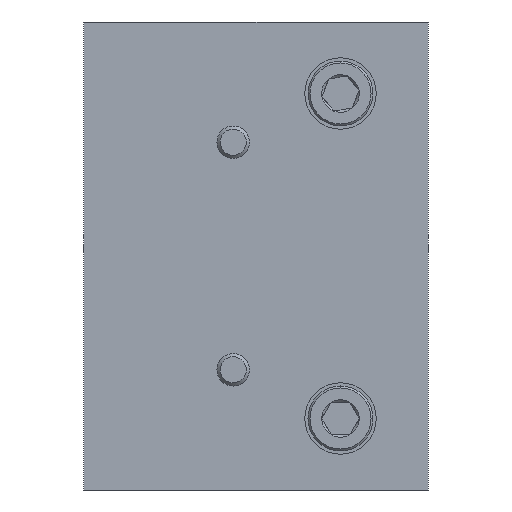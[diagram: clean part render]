
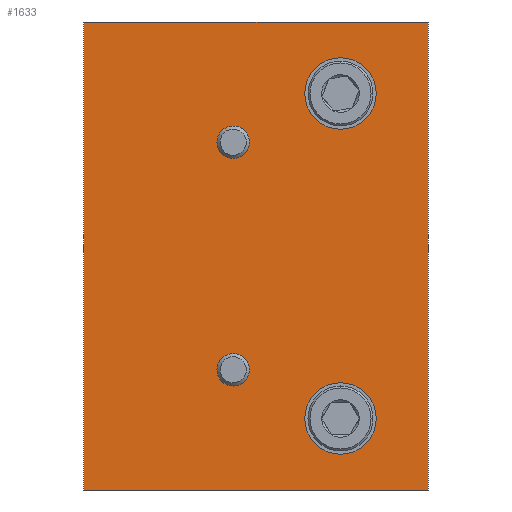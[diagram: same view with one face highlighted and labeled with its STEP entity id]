
A CAD part, left-side view. The second image highlights one B-rep face of the part: STEP entity #1633.
In plain terms, the highlighted planar face has unit normal (-1, 0, 0) as drawn and (0, 0, 1) by its records, which use the part's own axes.
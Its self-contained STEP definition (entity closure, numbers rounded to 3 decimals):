
#93 = VERTEX_POINT ( 'NONE', #1614 ) ;
#111 = CARTESIAN_POINT ( 'NONE',  ( -19.5, -13., 4. ) ) ;
#119 = DIRECTION ( 'NONE',  ( 0., 0., 1. ) ) ;
#131 = EDGE_CURVE ( 'NONE', #818, #818, #338, .T. ) ;
#157 = DIRECTION ( 'NONE',  ( 0., 0., 1. ) ) ;
#206 = VERTEX_POINT ( 'NONE', #1569 ) ;
#276 = VERTEX_POINT ( 'NONE', #2385 ) ;
#290 = PLANE ( 'NONE',  #1943 ) ;
#338 = CIRCLE ( 'NONE', #1249, 5.5 ) ;
#382 = DIRECTION ( 'NONE',  ( 0., 0., 1. ) ) ;
#408 = EDGE_CURVE ( 'NONE', #276, #276, #865, .T. ) ;
#411 = EDGE_CURVE ( 'NONE', #1776, #1715, #1961, .T. ) ;
#504 = FACE_BOUND ( 'NONE', #2331, .T. ) ;
#520 = AXIS2_PLACEMENT_3D ( 'NONE', #1363, #119, #1574 ) ;
#538 = ORIENTED_EDGE ( 'NONE', *, *, #1307, .T. ) ;
#605 = EDGE_CURVE ( 'NONE', #1715, #93, #1282, .T. ) ;
#728 = VECTOR ( 'NONE', #1429, 1000. ) ;
#818 = VERTEX_POINT ( 'NONE', #111 ) ;
#865 = CIRCLE ( 'NONE', #2582, 5.5 ) ;
#903 = DIRECTION ( 'NONE',  ( 0., 0., 1. ) ) ;
#922 = VECTOR ( 'NONE', #2642, 1000. ) ;
#937 = VERTEX_POINT ( 'NONE', #1565 ) ;
#964 = EDGE_CURVE ( 'NONE', #206, #206, #2384, .T. ) ;
#975 = LINE ( 'NONE', #2255, #1471 ) ;
#977 = EDGE_LOOP ( 'NONE', ( #1390, #538, #2491, #1706 ) ) ;
#1046 = DIRECTION ( 'NONE',  ( 0., 0., 1. ) ) ;
#1096 = ORIENTED_EDGE ( 'NONE', *, *, #2557, .F. ) ;
#1111 = VERTEX_POINT ( 'NONE', #1578 ) ;
#1140 = ORIENTED_EDGE ( 'NONE', *, *, #964, .F. ) ;
#1180 = CIRCLE ( 'NONE', #2379, 2.5 ) ;
#1184 = DIRECTION ( 'NONE',  ( 1., 0., 0. ) ) ;
#1249 = AXIS2_PLACEMENT_3D ( 'NONE', #2047, #382, #1833 ) ;
#1282 = LINE ( 'NONE', #1846, #728 ) ;
#1307 = EDGE_CURVE ( 'NONE', #93, #937, #975, .T. ) ;
#1328 = DIRECTION ( 'NONE',  ( 1., 0., 0. ) ) ;
#1363 = CARTESIAN_POINT ( 'NONE',  ( -17.5, 3.5, 4. ) ) ;
#1370 = DIRECTION ( 'NONE',  ( 0., 1., 0. ) ) ;
#1390 = ORIENTED_EDGE ( 'NONE', *, *, #605, .T. ) ;
#1399 = CARTESIAN_POINT ( 'NONE',  ( 25., -13., 4. ) ) ;
#1416 = LINE ( 'NONE', #1583, #2530 ) ;
#1418 = CARTESIAN_POINT ( 'NONE',  ( -36., 26.5, 4. ) ) ;
#1429 = DIRECTION ( 'NONE',  ( 0., -1., 0. ) ) ;
#1471 = VECTOR ( 'NONE', #1640, 1000. ) ;
#1546 = FACE_OUTER_BOUND ( 'NONE', #977, .T. ) ;
#1565 = CARTESIAN_POINT ( 'NONE',  ( 36., -26.5, 4. ) ) ;
#1569 = CARTESIAN_POINT ( 'NONE',  ( -15., 3.5, 4. ) ) ;
#1574 = DIRECTION ( 'NONE',  ( 1., 0., 0. ) ) ;
#1578 = CARTESIAN_POINT ( 'NONE',  ( 20., 3.5, 4. ) ) ;
#1583 = CARTESIAN_POINT ( 'NONE',  ( 36., 26.5, 4. ) ) ;
#1607 = FACE_BOUND ( 'NONE', #2234, .T. ) ;
#1614 = CARTESIAN_POINT ( 'NONE',  ( -36., -26.5, 4. ) ) ;
#1633 = ADVANCED_FACE ( 'NONE', ( #504, #1607, #2105, #2651, #1546 ), #290, .T. ) ;
#1640 = DIRECTION ( 'NONE',  ( 1., 0., 0. ) ) ;
#1670 = ORIENTED_EDGE ( 'NONE', *, *, #408, .F. ) ;
#1706 = ORIENTED_EDGE ( 'NONE', *, *, #411, .T. ) ;
#1715 = VERTEX_POINT ( 'NONE', #1418 ) ;
#1776 = VERTEX_POINT ( 'NONE', #2674 ) ;
#1833 = DIRECTION ( 'NONE',  ( 1., 0., 0. ) ) ;
#1846 = CARTESIAN_POINT ( 'NONE',  ( -36., 26.5, 4. ) ) ;
#1858 = EDGE_CURVE ( 'NONE', #937, #1776, #1416, .T. ) ;
#1943 = AXIS2_PLACEMENT_3D ( 'NONE', #2573, #903, #1328 ) ;
#1961 = LINE ( 'NONE', #2026, #922 ) ;
#2026 = CARTESIAN_POINT ( 'NONE',  ( -36., 26.5, 4. ) ) ;
#2033 = EDGE_LOOP ( 'NONE', ( #2512 ) ) ;
#2047 = CARTESIAN_POINT ( 'NONE',  ( -25., -13., 4. ) ) ;
#2105 = FACE_BOUND ( 'NONE', #2033, .T. ) ;
#2234 = EDGE_LOOP ( 'NONE', ( #1096 ) ) ;
#2255 = CARTESIAN_POINT ( 'NONE',  ( -36., -26.5, 4. ) ) ;
#2282 = CARTESIAN_POINT ( 'NONE',  ( 17.5, 3.5, 4. ) ) ;
#2331 = EDGE_LOOP ( 'NONE', ( #1140 ) ) ;
#2379 = AXIS2_PLACEMENT_3D ( 'NONE', #2282, #1046, #2501 ) ;
#2384 = CIRCLE ( 'NONE', #520, 2.5 ) ;
#2385 = CARTESIAN_POINT ( 'NONE',  ( 30.5, -13., 4. ) ) ;
#2491 = ORIENTED_EDGE ( 'NONE', *, *, #1858, .T. ) ;
#2501 = DIRECTION ( 'NONE',  ( 1., 0., 0. ) ) ;
#2512 = ORIENTED_EDGE ( 'NONE', *, *, #131, .F. ) ;
#2530 = VECTOR ( 'NONE', #1370, 1000. ) ;
#2555 = EDGE_LOOP ( 'NONE', ( #1670 ) ) ;
#2557 = EDGE_CURVE ( 'NONE', #1111, #1111, #1180, .T. ) ;
#2573 = CARTESIAN_POINT ( 'NONE',  ( -36., -26.5, 4. ) ) ;
#2582 = AXIS2_PLACEMENT_3D ( 'NONE', #1399, #157, #1184 ) ;
#2642 = DIRECTION ( 'NONE',  ( -1., 0., 0. ) ) ;
#2651 = FACE_BOUND ( 'NONE', #2555, .T. ) ;
#2674 = CARTESIAN_POINT ( 'NONE',  ( 36., 26.5, 4. ) ) ;
